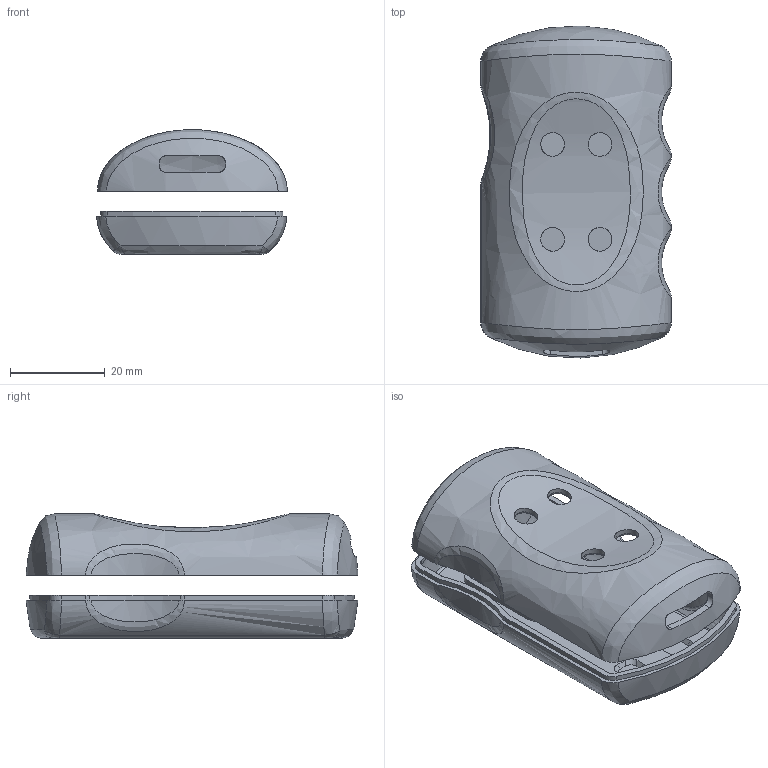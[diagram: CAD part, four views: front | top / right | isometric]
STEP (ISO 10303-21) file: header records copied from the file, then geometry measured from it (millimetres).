
FILE_DESCRIPTION(/* description */ (''),/* implementation_level */ '2;1');
FILE_NAME(/* name */ 'cp15_stp.stp',/* time_stamp */ '2019-05-02T08:55:41+08:00',/* author */ (''),/* organization */ (''),/* preprocessor_version */ 'ST-DEVELOPER v16',/* originating_system */ 'SIEMENS PLM Software NX 10.0',/* authorisation */ '');
FILE_SCHEMA (('AUTOMOTIVE_DESIGN { 1 0 10303 214 3 1 1 1 }'));
Length unit declared in the file: millimetre
Products named in the file (1): cp15_stp
Bounding box: 40.14 x 69.97 x 26.26 mm (x, y, z)
Volume: 11039.2 mm3; surface area: 15365.6 mm2
Topology: 2 solids, 2 shells, 258 faces, 697 edges, 457 vertices
Faces by surface type: cylinder 109, plane 78, bspline 64, extrusion 7
Full cylindrical faces by diameter (mm): 5 x4, 12 x2
Entity records: 12346 total; most frequent: CARTESIAN_POINT 6287, ORIENTED_EDGE 1352, DIRECTION 1123, EDGE_CURVE 676, VERTEX_POINT 448, AXIS2_PLACEMENT_3D 405, VECTOR 313, LINE 306
